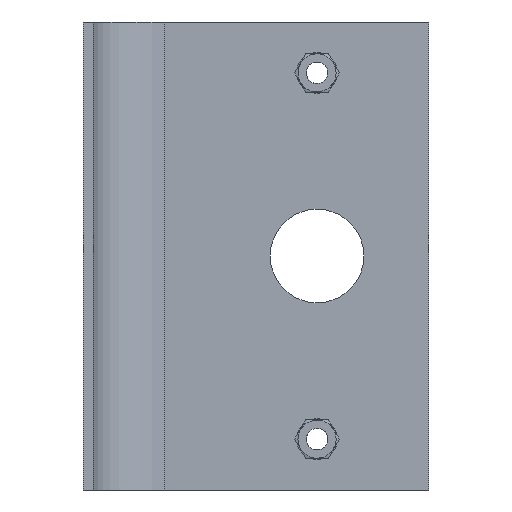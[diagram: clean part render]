
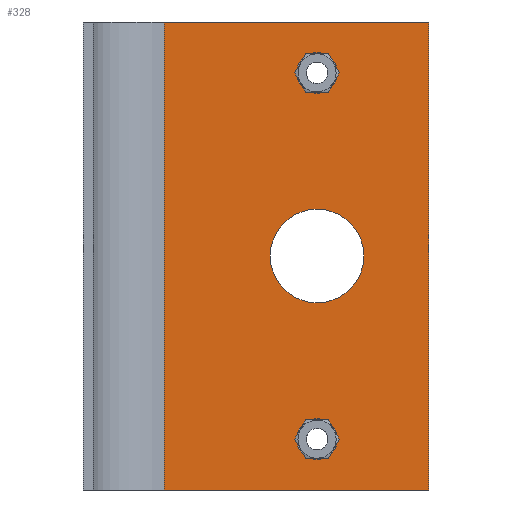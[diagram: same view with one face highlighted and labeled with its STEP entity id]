
A CAD part, left-side view. The second image highlights one B-rep face of the part: STEP entity #328.
In plain terms, the highlighted planar face has unit normal (-1, 0, 0).
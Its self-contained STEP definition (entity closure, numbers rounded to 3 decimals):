
#199=FACE_BOUND('',#534,.T.);
#200=FACE_BOUND('',#535,.T.);
#201=FACE_BOUND('',#536,.T.);
#202=FACE_BOUND('',#537,.T.);
#283=CIRCLE('',#1519,23.);
#284=CIRCLE('',#1520,10.);
#285=CIRCLE('',#1521,10.);
#328=ADVANCED_FACE('',(#199,#200,#201,#202),#418,.T.);
#418=PLANE('',#1522);
#534=EDGE_LOOP('',(#673));
#535=EDGE_LOOP('',(#674));
#536=EDGE_LOOP('',(#675));
#537=EDGE_LOOP('',(#676,#677,#678,#679));
#673=ORIENTED_EDGE('',*,*,#1165,.F.);
#674=ORIENTED_EDGE('',*,*,#1166,.T.);
#675=ORIENTED_EDGE('',*,*,#1167,.T.);
#676=ORIENTED_EDGE('',*,*,#1168,.T.);
#677=ORIENTED_EDGE('',*,*,#1161,.T.);
#678=ORIENTED_EDGE('',*,*,#1169,.T.);
#679=ORIENTED_EDGE('',*,*,#1170,.F.);
#1029=VERTEX_POINT('',#2012);
#1030=VERTEX_POINT('',#2013);
#1033=VERTEX_POINT('',#2021);
#1034=VERTEX_POINT('',#2023);
#1035=VERTEX_POINT('',#2025);
#1036=VERTEX_POINT('',#2027);
#1037=VERTEX_POINT('',#2029);
#1161=EDGE_CURVE('',#1029,#1030,#1341,.T.);
#1165=EDGE_CURVE('',#1033,#1033,#283,.T.);
#1166=EDGE_CURVE('',#1034,#1034,#284,.T.);
#1167=EDGE_CURVE('',#1035,#1035,#285,.T.);
#1168=EDGE_CURVE('',#1036,#1029,#1345,.T.);
#1169=EDGE_CURVE('',#1030,#1037,#1346,.T.);
#1170=EDGE_CURVE('',#1036,#1037,#1347,.T.);
#1341=LINE('',#2011,#1429);
#1345=LINE('',#2026,#1433);
#1346=LINE('',#2028,#1434);
#1347=LINE('',#2030,#1435);
#1429=VECTOR('',#1654,1.);
#1433=VECTOR('',#1666,1.);
#1434=VECTOR('',#1667,1.);
#1435=VECTOR('',#1668,1.);
#1519=AXIS2_PLACEMENT_3D('',#2020,#1660,#1661);
#1520=AXIS2_PLACEMENT_3D('',#2022,#1662,#1663);
#1521=AXIS2_PLACEMENT_3D('',#2024,#1664,#1665);
#1522=AXIS2_PLACEMENT_3D('',#2031,#1669,#1670);
#1654=DIRECTION('',(0.,0.,1.));
#1660=DIRECTION('',(-1.,0.,0.));
#1661=DIRECTION('',(0.,0.,1.));
#1662=DIRECTION('',(1.,0.,0.));
#1663=DIRECTION('',(0.,0.,1.));
#1664=DIRECTION('',(1.,0.,0.));
#1665=DIRECTION('',(0.,0.,1.));
#1666=DIRECTION('',(0.,-1.,0.));
#1667=DIRECTION('',(0.,1.,0.));
#1668=DIRECTION('',(0.,0.,1.));
#1669=DIRECTION('',(-1.,0.,0.));
#1670=DIRECTION('',(0.,0.,1.));
#2011=CARTESIAN_POINT('',(20.,5415.,1090.));
#2012=CARTESIAN_POINT('',(20.,5415.,885.));
#2013=CARTESIAN_POINT('',(20.,5415.,1115.));
#2020=CARTESIAN_POINT('',(20.,5470.,1000.));
#2021=CARTESIAN_POINT('',(20.,5470.,1023.));
#2022=CARTESIAN_POINT('',(20.,5470.,1090.));
#2023=CARTESIAN_POINT('',(20.,5470.,1100.));
#2024=CARTESIAN_POINT('',(20.,5470.,910.));
#2025=CARTESIAN_POINT('',(20.,5470.,920.));
#2026=CARTESIAN_POINT('',(20.,5470.,885.));
#2027=CARTESIAN_POINT('',(20.,5545.,885.));
#2028=CARTESIAN_POINT('',(20.,5470.,1115.));
#2029=CARTESIAN_POINT('',(20.,5545.,1115.));
#2030=CARTESIAN_POINT('',(20.,5545.,1090.));
#2031=CARTESIAN_POINT('',(20.,5470.,1090.));
